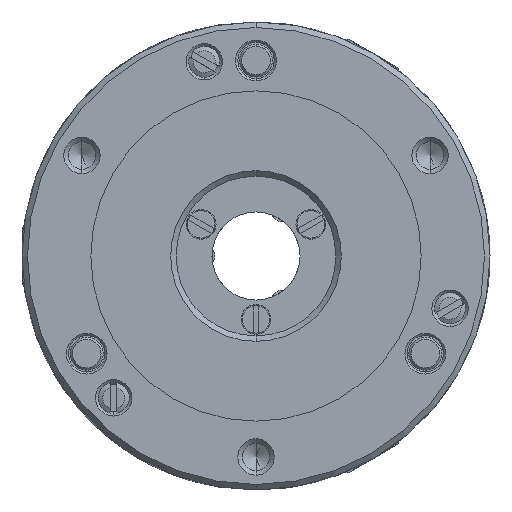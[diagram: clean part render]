
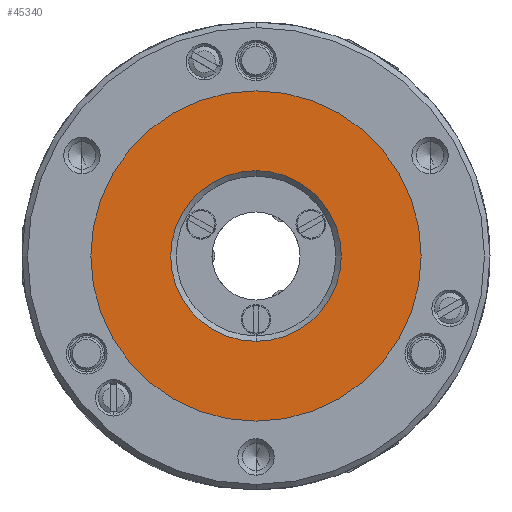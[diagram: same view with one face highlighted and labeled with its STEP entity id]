
A CAD part, left-side view. The second image highlights one B-rep face of the part: STEP entity #45340.
In plain terms, the highlighted planar face has unit normal (-1, 0, 0).
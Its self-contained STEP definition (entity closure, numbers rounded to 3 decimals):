
#183 = CIRCLE ( 'NONE', #21134, 30. ) ;
#1136 = CARTESIAN_POINT ( 'NONE',  ( -41.5, 0., 0. ) ) ;
#1172 = EDGE_CURVE ( 'NONE', #30153, #14009, #26883, .T. ) ;
#1522 = CARTESIAN_POINT ( 'NONE',  ( -41.5, 0., 0. ) ) ;
#1585 = CIRCLE ( 'NONE', #13639, 15.5 ) ;
#1694 = CARTESIAN_POINT ( 'NONE',  ( -41.5, 0., -30. ) ) ;
#3085 = DIRECTION ( 'NONE',  ( 0., 0., -1. ) ) ;
#3599 = EDGE_LOOP ( 'NONE', ( #3620, #29523 ) ) ;
#3620 = ORIENTED_EDGE ( 'NONE', *, *, #45079, .F. ) ;
#4492 = FACE_BOUND ( 'NONE', #46497, .T. ) ;
#5507 = VERTEX_POINT ( 'NONE', #48784 ) ;
#7045 = DIRECTION ( 'NONE',  ( 0., 0., -1. ) ) ;
#7107 = CARTESIAN_POINT ( 'NONE',  ( -41.5, 0., 0. ) ) ;
#7267 = CIRCLE ( 'NONE', #41076, 30. ) ;
#8522 = PLANE ( 'NONE',  #35597 ) ;
#13639 = AXIS2_PLACEMENT_3D ( 'NONE', #7107, #45168, #3085 ) ;
#14009 = VERTEX_POINT ( 'NONE', #35021 ) ;
#15784 = EDGE_CURVE ( 'NONE', #5507, #28769, #7267, .T. ) ;
#15921 = ORIENTED_EDGE ( 'NONE', *, *, #1172, .T. ) ;
#17266 = DIRECTION ( 'NONE',  ( 1., 0., 0. ) ) ;
#20032 = DIRECTION ( 'NONE',  ( 0., 0., -1. ) ) ;
#21134 = AXIS2_PLACEMENT_3D ( 'NONE', #1522, #28724, #32513 ) ;
#23145 = EDGE_CURVE ( 'NONE', #14009, #30153, #1585, .T. ) ;
#23394 = FACE_OUTER_BOUND ( 'NONE', #3599, .T. ) ;
#26193 = DIRECTION ( 'NONE',  ( 1., 0., 0. ) ) ;
#26883 = CIRCLE ( 'NONE', #32533, 15.5 ) ;
#26927 = DIRECTION ( 'NONE',  ( 0., 0., 1. ) ) ;
#28724 = DIRECTION ( 'NONE',  ( 1., 0., 0. ) ) ;
#28769 = VERTEX_POINT ( 'NONE', #1694 ) ;
#29523 = ORIENTED_EDGE ( 'NONE', *, *, #15784, .F. ) ;
#30153 = VERTEX_POINT ( 'NONE', #36668 ) ;
#31202 = CARTESIAN_POINT ( 'NONE',  ( -41.5, 30., 0. ) ) ;
#32513 = DIRECTION ( 'NONE',  ( 0., 0., -1. ) ) ;
#32533 = AXIS2_PLACEMENT_3D ( 'NONE', #49604, #26193, #7045 ) ;
#35021 = CARTESIAN_POINT ( 'NONE',  ( -41.5, 0., -15.5 ) ) ;
#35492 = DIRECTION ( 'NONE',  ( -1., 0., 0. ) ) ;
#35597 = AXIS2_PLACEMENT_3D ( 'NONE', #31202, #35492, #26927 ) ;
#36264 = ORIENTED_EDGE ( 'NONE', *, *, #23145, .T. ) ;
#36668 = CARTESIAN_POINT ( 'NONE',  ( -41.5, 0., 15.5 ) ) ;
#41076 = AXIS2_PLACEMENT_3D ( 'NONE', #1136, #17266, #20032 ) ;
#45079 = EDGE_CURVE ( 'NONE', #28769, #5507, #183, .T. ) ;
#45168 = DIRECTION ( 'NONE',  ( 1., 0., 0. ) ) ;
#45340 = ADVANCED_FACE ( 'NONE', ( #4492, #23394 ), #8522, .T. ) ;
#46497 = EDGE_LOOP ( 'NONE', ( #15921, #36264 ) ) ;
#48784 = CARTESIAN_POINT ( 'NONE',  ( -41.5, 0., 30. ) ) ;
#49604 = CARTESIAN_POINT ( 'NONE',  ( -41.5, 0., 0. ) ) ;
